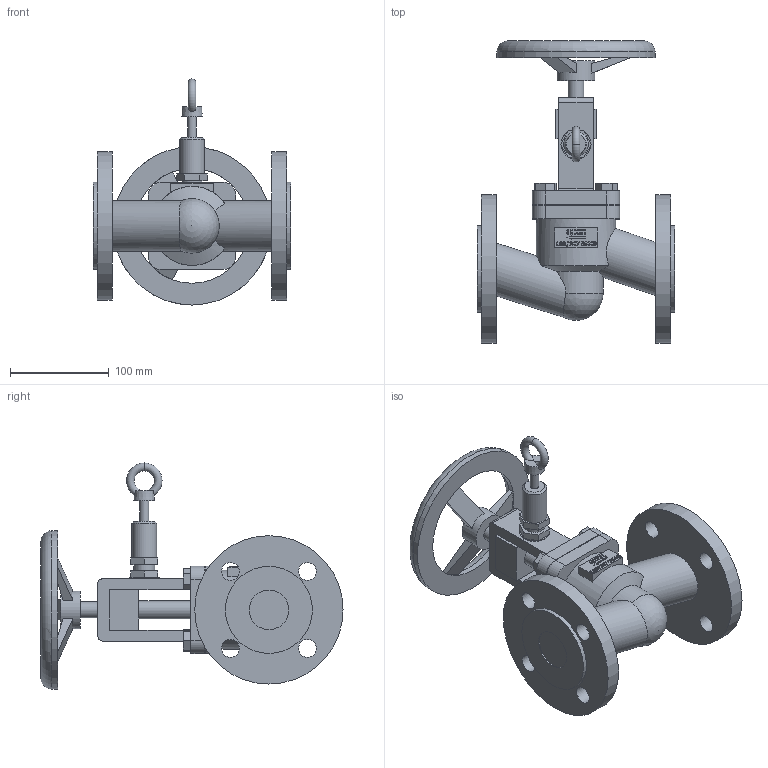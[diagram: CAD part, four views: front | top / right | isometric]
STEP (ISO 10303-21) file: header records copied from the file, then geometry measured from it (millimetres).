
FILE_DESCRIPTION(/* description */ (''),/* implementation_level */ '2;1');
FILE_NAME(/* name */ '100-247M-DN40-PN16.stp',/* time_stamp */ '2024-07-09T08:01:59+02:00',/* author */ ('roger.thijssen'),/* organization */ (''),/* preprocessor_version */ 'ST-DEVELOPER v20',/* originating_system */ 'Autodesk Inventor 2024',/* authorisation */ '');
FILE_SCHEMA (('AUTOMOTIVE_DESIGN { 1 0 10303 214 3 1 1 }'));
Length unit declared in the file: millimetre
Products named in the file (1): 100-247M-DN40-PN16
Bounding box: 200 x 305.5 x 228.5 mm (x, y, z)
Volume: 1722454.5 mm3; surface area: 225472.4 mm2
Topology: 1 solids, 1 shells, 375 faces, 971 edges, 638 vertices
Faces by surface type: plane 253, cylinder 59, bspline 55, cone 4, torus 3, sphere 1
Full cylindrical faces by diameter (mm): 9 x1, 16 x1, 18 x9, 21 x1, 25 x1, 30 x1, 38 x1, 40 x2, 51 x2, 68 x1, 80 x1, 88 x2, 116 x1, 150 x2, 160 x1
Entity records: 12580 total; most frequent: CARTESIAN_POINT 3150, ORIENTED_EDGE 1940, DIRECTION 1634, EDGE_CURVE 970, LINE 680, VECTOR 680, VERTEX_POINT 638, AXIS2_PLACEMENT_3D 477
